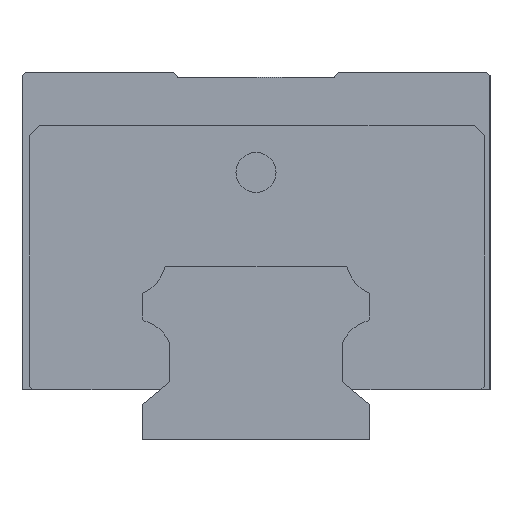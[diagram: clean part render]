
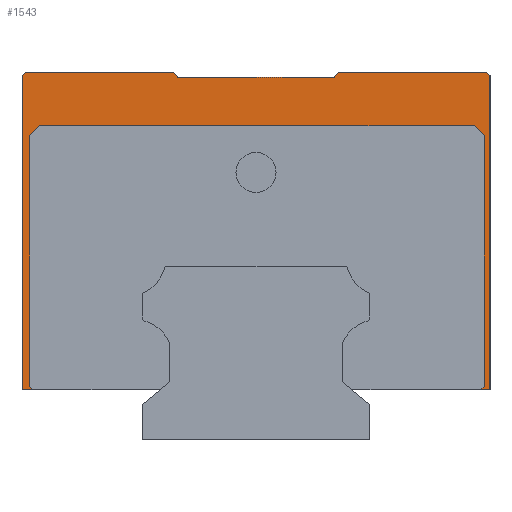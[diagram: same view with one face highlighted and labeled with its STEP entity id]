
A CAD part, left-side view. The second image highlights one B-rep face of the part: STEP entity #1543.
In plain terms, the highlighted planar face has unit normal (-1, 0, 0).
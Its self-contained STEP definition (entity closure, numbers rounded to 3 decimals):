
#6 = EDGE_CURVE ( 'NONE', #1213, #5752, #1593, .T. ) ;
#29 = CARTESIAN_POINT ( 'NONE',  ( -61.5, -35., 7.5 ) ) ;
#80 = CARTESIAN_POINT ( 'NONE',  ( -61.5, 35., 7.5 ) ) ;
#97 = CARTESIAN_POINT ( 'NONE',  ( -61.5, -35., 54.5 ) ) ;
#127 = DIRECTION ( 'NONE',  ( 0., 0.707, -0.707 ) ) ;
#224 = VERTEX_POINT ( 'NONE', #1474 ) ;
#244 = EDGE_CURVE ( 'NONE', #2823, #3040, #1413, .T. ) ;
#273 = DIRECTION ( 'NONE',  ( 1., 0., 0. ) ) ;
#303 = CARTESIAN_POINT ( 'NONE',  ( -61.5, 35., 7.5 ) ) ;
#331 = DIRECTION ( 'NONE',  ( 0., -0.707, -0.707 ) ) ;
#365 = CARTESIAN_POINT ( 'NONE',  ( -61.5, 35., 55. ) ) ;
#373 = ORIENTED_EDGE ( 'NONE', *, *, #1010, .F. ) ;
#404 = ORIENTED_EDGE ( 'NONE', *, *, #1663, .F. ) ;
#432 = ORIENTED_EDGE ( 'NONE', *, *, #3570, .F. ) ;
#436 = VERTEX_POINT ( 'NONE', #3710 ) ;
#455 = LINE ( 'NONE', #2965, #5016 ) ;
#484 = VECTOR ( 'NONE', #5216, 1000. ) ;
#507 = VECTOR ( 'NONE', #127, 1000. ) ;
#600 = ORIENTED_EDGE ( 'NONE', *, *, #4318, .F. ) ;
#652 = ORIENTED_EDGE ( 'NONE', *, *, #2936, .T. ) ;
#669 = VECTOR ( 'NONE', #4194, 1000. ) ;
#692 = ORIENTED_EDGE ( 'NONE', *, *, #244, .F. ) ;
#744 = DIRECTION ( 'NONE',  ( 0., -1., 0. ) ) ;
#766 = VECTOR ( 'NONE', #2695, 1000. ) ;
#770 = CARTESIAN_POINT ( 'NONE',  ( -61.5, 14.65, 7.5 ) ) ;
#839 = CARTESIAN_POINT ( 'NONE',  ( -61.5, 33.372, 7.5 ) ) ;
#849 = VECTOR ( 'NONE', #5159, 1000. ) ;
#886 = CARTESIAN_POINT ( 'NONE',  ( -61.5, 32.372, 47. ) ) ;
#911 = LINE ( 'NONE', #886, #5465 ) ;
#921 = CARTESIAN_POINT ( 'NONE',  ( -61.5, 33.872, 45.5 ) ) ;
#977 = EDGE_CURVE ( 'NONE', #2828, #4166, #4915, .T. ) ;
#1010 = EDGE_CURVE ( 'NONE', #436, #2828, #911, .T. ) ;
#1073 = LINE ( 'NONE', #97, #1547 ) ;
#1088 = CARTESIAN_POINT ( 'NONE',  ( -61.5, -34.128, 45.5 ) ) ;
#1108 = VERTEX_POINT ( 'NONE', #1742 ) ;
#1161 = EDGE_CURVE ( 'NONE', #3040, #4734, #2317, .T. ) ;
#1212 = CARTESIAN_POINT ( 'NONE',  ( -61.5, -34.128, 8. ) ) ;
#1213 = VERTEX_POINT ( 'NONE', #80 ) ;
#1216 = CARTESIAN_POINT ( 'NONE',  ( -61.5, 35., 55. ) ) ;
#1275 = LINE ( 'NONE', #4361, #4358 ) ;
#1281 = FACE_OUTER_BOUND ( 'NONE', #2308, .T. ) ;
#1303 = CARTESIAN_POINT ( 'NONE',  ( -61.5, -35., 54.5 ) ) ;
#1310 = DIRECTION ( 'NONE',  ( 0., 1., 0. ) ) ;
#1314 = VERTEX_POINT ( 'NONE', #5391 ) ;
#1333 = LINE ( 'NONE', #2705, #3938 ) ;
#1413 = LINE ( 'NONE', #3209, #4123 ) ;
#1474 = CARTESIAN_POINT ( 'NONE',  ( -61.5, -34.5, 55. ) ) ;
#1512 = EDGE_CURVE ( 'NONE', #1601, #1756, #2120, .T. ) ;
#1543 = ADVANCED_FACE ( 'NONE', ( #1281 ), #2149, .F. ) ;
#1547 = VECTOR ( 'NONE', #5489, 1000. ) ;
#1549 = CARTESIAN_POINT ( 'NONE',  ( -61.5, -35., 7.5 ) ) ;
#1591 = LINE ( 'NONE', #3424, #3622 ) ;
#1593 = LINE ( 'NONE', #303, #849 ) ;
#1601 = VERTEX_POINT ( 'NONE', #4425 ) ;
#1644 = VECTOR ( 'NONE', #3601, 1000. ) ;
#1663 = EDGE_CURVE ( 'NONE', #4734, #1108, #1333, .T. ) ;
#1742 = CARTESIAN_POINT ( 'NONE',  ( -61.5, -32.628, 47. ) ) ;
#1752 = LINE ( 'NONE', #365, #1644 ) ;
#1756 = VERTEX_POINT ( 'NONE', #2002 ) ;
#1832 = CARTESIAN_POINT ( 'NONE',  ( -61.5, 33.872, 8. ) ) ;
#1909 = VECTOR ( 'NONE', #3851, 1000. ) ;
#2002 = CARTESIAN_POINT ( 'NONE',  ( -61.5, 12.296, 55. ) ) ;
#2007 = ORIENTED_EDGE ( 'NONE', *, *, #1512, .F. ) ;
#2014 = EDGE_CURVE ( 'NONE', #1314, #4051, #2110, .T. ) ;
#2040 = EDGE_CURVE ( 'NONE', #4166, #2810, #455, .T. ) ;
#2110 = LINE ( 'NONE', #3448, #1909 ) ;
#2120 = LINE ( 'NONE', #1216, #3096 ) ;
#2149 = PLANE ( 'NONE',  #4317 ) ;
#2161 = ORIENTED_EDGE ( 'NONE', *, *, #5693, .F. ) ;
#2190 = VECTOR ( 'NONE', #1310, 1000. ) ;
#2308 = EDGE_LOOP ( 'NONE', ( #2612, #692, #432, #2603, #652, #4319, #4400, #5256, #2839, #2007, #2451, #4521, #2161, #4735, #5284, #373, #600, #404 ) ) ;
#2317 = LINE ( 'NONE', #5554, #4239 ) ;
#2325 = CARTESIAN_POINT ( 'NONE',  ( -61.5, -11.667, 54.25 ) ) ;
#2451 = ORIENTED_EDGE ( 'NONE', *, *, #2874, .T. ) ;
#2512 = VERTEX_POINT ( 'NONE', #3717 ) ;
#2603 = ORIENTED_EDGE ( 'NONE', *, *, #3389, .F. ) ;
#2612 = ORIENTED_EDGE ( 'NONE', *, *, #1161, .F. ) ;
#2695 = DIRECTION ( 'NONE',  ( 0., 0., -1. ) ) ;
#2705 = CARTESIAN_POINT ( 'NONE',  ( -61.5, -34.128, 45.5 ) ) ;
#2733 = EDGE_CURVE ( 'NONE', #1314, #224, #1752, .T. ) ;
#2810 = VERTEX_POINT ( 'NONE', #839 ) ;
#2816 = DIRECTION ( 'NONE',  ( 0., -0.707, 0.707 ) ) ;
#2823 = VERTEX_POINT ( 'NONE', #4957 ) ;
#2828 = VERTEX_POINT ( 'NONE', #921 ) ;
#2839 = ORIENTED_EDGE ( 'NONE', *, *, #3032, .T. ) ;
#2874 = EDGE_CURVE ( 'NONE', #1601, #5752, #3650, .T. ) ;
#2936 = EDGE_CURVE ( 'NONE', #4010, #224, #1073, .T. ) ;
#2965 = CARTESIAN_POINT ( 'NONE',  ( -61.5, 33.872, 8. ) ) ;
#3032 = EDGE_CURVE ( 'NONE', #2512, #1756, #1591, .T. ) ;
#3040 = VERTEX_POINT ( 'NONE', #1212 ) ;
#3096 = VECTOR ( 'NONE', #744, 1000. ) ;
#3152 = CARTESIAN_POINT ( 'NONE',  ( -61.5, 33.872, 45.5 ) ) ;
#3209 = CARTESIAN_POINT ( 'NONE',  ( -61.5, -33.628, 7.5 ) ) ;
#3245 = LINE ( 'NONE', #2325, #2190 ) ;
#3389 = EDGE_CURVE ( 'NONE', #4010, #4519, #3846, .T. ) ;
#3424 = CARTESIAN_POINT ( 'NONE',  ( -61.5, 11.667, 54.25 ) ) ;
#3448 = CARTESIAN_POINT ( 'NONE',  ( -61.5, -12.296, 55. ) ) ;
#3455 = DIRECTION ( 'NONE',  ( 0., 0.643, 0.766 ) ) ;
#3570 = EDGE_CURVE ( 'NONE', #4519, #2823, #5022, .T. ) ;
#3587 = CARTESIAN_POINT ( 'NONE',  ( -61.5, 35., 54.5 ) ) ;
#3601 = DIRECTION ( 'NONE',  ( 0., -1., 0. ) ) ;
#3622 = VECTOR ( 'NONE', #3455, 1000. ) ;
#3650 = LINE ( 'NONE', #4094, #507 ) ;
#3710 = CARTESIAN_POINT ( 'NONE',  ( -61.5, 32.372, 47. ) ) ;
#3717 = CARTESIAN_POINT ( 'NONE',  ( -61.5, 11.667, 54.25 ) ) ;
#3846 = LINE ( 'NONE', #4294, #5562 ) ;
#3851 = DIRECTION ( 'NONE',  ( 0., 0.643, -0.766 ) ) ;
#3938 = VECTOR ( 'NONE', #5450, 1000. ) ;
#4010 = VERTEX_POINT ( 'NONE', #1303 ) ;
#4051 = VERTEX_POINT ( 'NONE', #4593 ) ;
#4094 = CARTESIAN_POINT ( 'NONE',  ( -61.5, 34.5, 55. ) ) ;
#4109 = DIRECTION ( 'NONE',  ( 0., 0., 1. ) ) ;
#4123 = VECTOR ( 'NONE', #2816, 1000. ) ;
#4166 = VERTEX_POINT ( 'NONE', #1832 ) ;
#4194 = DIRECTION ( 'NONE',  ( 0., 1., 0. ) ) ;
#4239 = VECTOR ( 'NONE', #4109, 1000. ) ;
#4294 = CARTESIAN_POINT ( 'NONE',  ( -61.5, -35., 55. ) ) ;
#4317 = AXIS2_PLACEMENT_3D ( 'NONE', #4809, #273, #5192 ) ;
#4318 = EDGE_CURVE ( 'NONE', #1108, #436, #1275, .T. ) ;
#4319 = ORIENTED_EDGE ( 'NONE', *, *, #2733, .F. ) ;
#4358 = VECTOR ( 'NONE', #4772, 1000. ) ;
#4361 = CARTESIAN_POINT ( 'NONE',  ( -61.5, -32.628, 47. ) ) ;
#4400 = ORIENTED_EDGE ( 'NONE', *, *, #2014, .T. ) ;
#4425 = CARTESIAN_POINT ( 'NONE',  ( -61.5, 34.5, 55. ) ) ;
#4519 = VERTEX_POINT ( 'NONE', #29 ) ;
#4521 = ORIENTED_EDGE ( 'NONE', *, *, #6, .F. ) ;
#4593 = CARTESIAN_POINT ( 'NONE',  ( -61.5, -11.667, 54.25 ) ) ;
#4734 = VERTEX_POINT ( 'NONE', #1088 ) ;
#4735 = ORIENTED_EDGE ( 'NONE', *, *, #2040, .F. ) ;
#4772 = DIRECTION ( 'NONE',  ( 0., 1., 0. ) ) ;
#4799 = LINE ( 'NONE', #770, #484 ) ;
#4809 = CARTESIAN_POINT ( 'NONE',  ( -61.5, -35., 55. ) ) ;
#4915 = LINE ( 'NONE', #3152, #766 ) ;
#4957 = CARTESIAN_POINT ( 'NONE',  ( -61.5, -33.628, 7.5 ) ) ;
#5016 = VECTOR ( 'NONE', #331, 1000. ) ;
#5022 = LINE ( 'NONE', #1549, #669 ) ;
#5159 = DIRECTION ( 'NONE',  ( 0., 0., 1. ) ) ;
#5192 = DIRECTION ( 'NONE',  ( 0., 1., 0. ) ) ;
#5216 = DIRECTION ( 'NONE',  ( 0., 1., 0. ) ) ;
#5256 = ORIENTED_EDGE ( 'NONE', *, *, #5345, .T. ) ;
#5284 = ORIENTED_EDGE ( 'NONE', *, *, #977, .F. ) ;
#5345 = EDGE_CURVE ( 'NONE', #4051, #2512, #3245, .T. ) ;
#5359 = DIRECTION ( 'NONE',  ( 0., 0.707, -0.707 ) ) ;
#5391 = CARTESIAN_POINT ( 'NONE',  ( -61.5, -12.296, 55. ) ) ;
#5450 = DIRECTION ( 'NONE',  ( 0., 0.707, 0.707 ) ) ;
#5465 = VECTOR ( 'NONE', #5359, 1000. ) ;
#5489 = DIRECTION ( 'NONE',  ( 0., 0.707, 0.707 ) ) ;
#5530 = DIRECTION ( 'NONE',  ( 0., 0., -1. ) ) ;
#5554 = CARTESIAN_POINT ( 'NONE',  ( -61.5, -34.128, 8. ) ) ;
#5562 = VECTOR ( 'NONE', #5530, 1000. ) ;
#5693 = EDGE_CURVE ( 'NONE', #2810, #1213, #4799, .T. ) ;
#5752 = VERTEX_POINT ( 'NONE', #3587 ) ;
